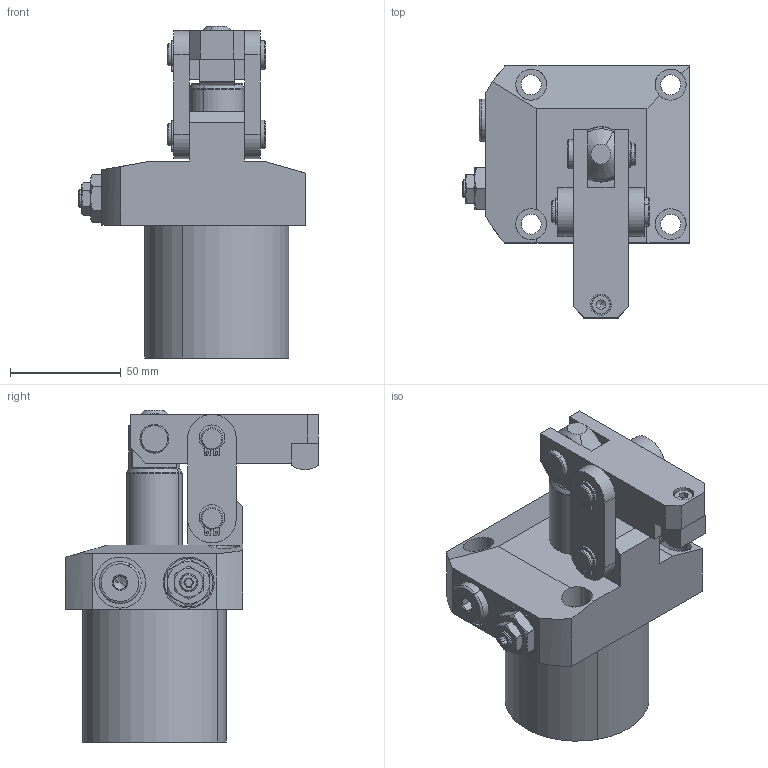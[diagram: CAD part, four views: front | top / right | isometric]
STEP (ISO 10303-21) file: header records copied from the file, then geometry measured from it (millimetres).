
FILE_DESCRIPTION(('CATIA V5 STEP Exchange'),'2;1');
FILE_NAME('\\Kjf-102\KJF_TC\Hydraulic_Clamp\Standard\HINGE_CLAMP\HGC-4004\배포도면\HGC-4005GV-RH_-.stp','2026-04-27T06:24:30+00:00',('none'),('none'),'CATIA Version 5 Release 19 SP 9 (IN-10)','CATIA V5 STEP AP203','none');
FILE_SCHEMA(('CONFIG_CONTROL_DESIGN'));
Length unit declared in the file: millimetre
Products named in the file (2): HGC-4005GV-RH_C; FCV-0014
Assembly tree (20 placements, depth 3):
  HGC-4005GV-RH_C
    #58
    #2362
    #2961
    #3364
    #4185  x2
    #4505
    #4770
    #5239  x2
    #5723
    #6615  x3
    FCV-0014
      #7283
      #8472
      #9180
      #9349
    #10086
Bounding box: 102.5 x 114 x 150 mm (x, y, z)
Volume: 423509 mm3; surface area: 96910.5 mm2
Topology: 19 solids, 19 shells, 485 faces, 1124 edges, 709 vertices
Faces by surface type: cylinder 205, plane 178, cone 87, torus 15
Entity records: 11426 total; most frequent: CARTESIAN_POINT 2387, ORIENTED_EDGE 1884, DIRECTION 1490, EDGE_CURVE 942, AXIS2_PLACEMENT_3D 751, VERTEX_POINT 597, EDGE_LOOP 493, CIRCLE 437
